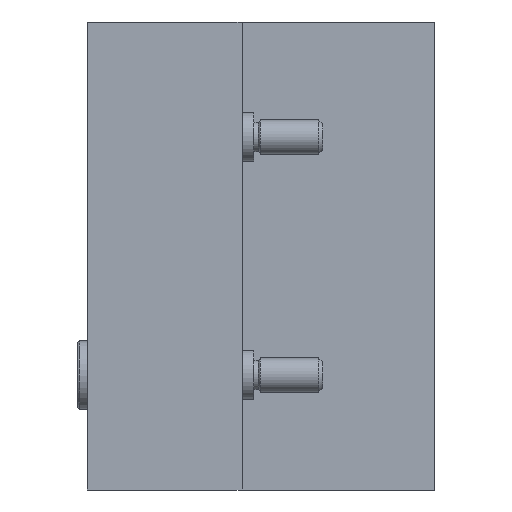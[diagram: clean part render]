
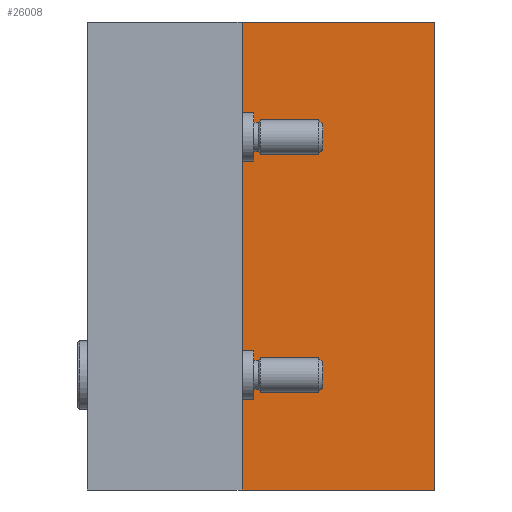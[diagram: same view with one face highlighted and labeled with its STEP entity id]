
A CAD part, left-side view. The second image highlights one B-rep face of the part: STEP entity #26008.
In plain terms, the highlighted planar face has unit normal (-1, 0, 0).
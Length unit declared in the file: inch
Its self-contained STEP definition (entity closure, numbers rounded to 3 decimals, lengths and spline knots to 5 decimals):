
#3275=FACE_OUTER_BOUND('',#7241,.T.);
#7241=EDGE_LOOP('',(#21689,#21690,#21691,#21692));
#8104=LINE('',#35796,#9558);
#9238=LINE('',#41805,#10692);
#9276=LINE('',#44226,#10730);
#9277=LINE('',#44227,#10731);
#9558=VECTOR('',#28701,0.485);
#10692=VECTOR('',#30995,1.18);
#10730=VECTOR('',#34185,1.18);
#10731=VECTOR('',#34186,0.485);
#11157=VERTEX_POINT('',#35793);
#11158=VERTEX_POINT('',#35795);
#12177=VERTEX_POINT('',#41802);
#12984=VERTEX_POINT('',#44225);
#13485=EDGE_CURVE('',#11157,#11158,#8104,.T.);
#15108=EDGE_CURVE('',#12177,#11158,#9238,.T.);
#15930=EDGE_CURVE('',#12984,#11157,#9276,.T.);
#15931=EDGE_CURVE('',#12984,#12177,#9277,.T.);
#21689=ORIENTED_EDGE('',*,*,#15108,.T.);
#21690=ORIENTED_EDGE('',*,*,#13485,.F.);
#21691=ORIENTED_EDGE('',*,*,#15930,.F.);
#21692=ORIENTED_EDGE('',*,*,#15931,.T.);
#22892=PLANE('',#28296);
#26008=ADVANCED_FACE('',(#3275),#22892,.T.);
#28296=AXIS2_PLACEMENT_3D('',#44224,#34183,#34184);
#28701=DIRECTION('',(0.,-1.,0.));
#30995=DIRECTION('',(0.,0.,1.));
#34183=DIRECTION('center_axis',(-1.,0.,0.));
#34184=DIRECTION('ref_axis',(0.,-1.,0.));
#34185=DIRECTION('',(0.,0.,1.));
#34186=DIRECTION('',(0.,-1.,0.));
#35793=CARTESIAN_POINT('',(-3.30274,0.23278,0.59));
#35795=CARTESIAN_POINT('',(-3.30274,-0.25222,0.59));
#35796=CARTESIAN_POINT('',(-3.30274,0.23278,0.59));
#41802=CARTESIAN_POINT('',(-3.30274,-0.25222,-0.59));
#41805=CARTESIAN_POINT('',(-3.30274,-0.25222,0.59));
#44224=CARTESIAN_POINT('Origin',(-3.30274,0.23278,-0.59));
#44225=CARTESIAN_POINT('',(-3.30274,0.23278,-0.59));
#44226=CARTESIAN_POINT('',(-3.30274,0.23278,-0.295));
#44227=CARTESIAN_POINT('',(-3.30274,0.23278,-0.59));
